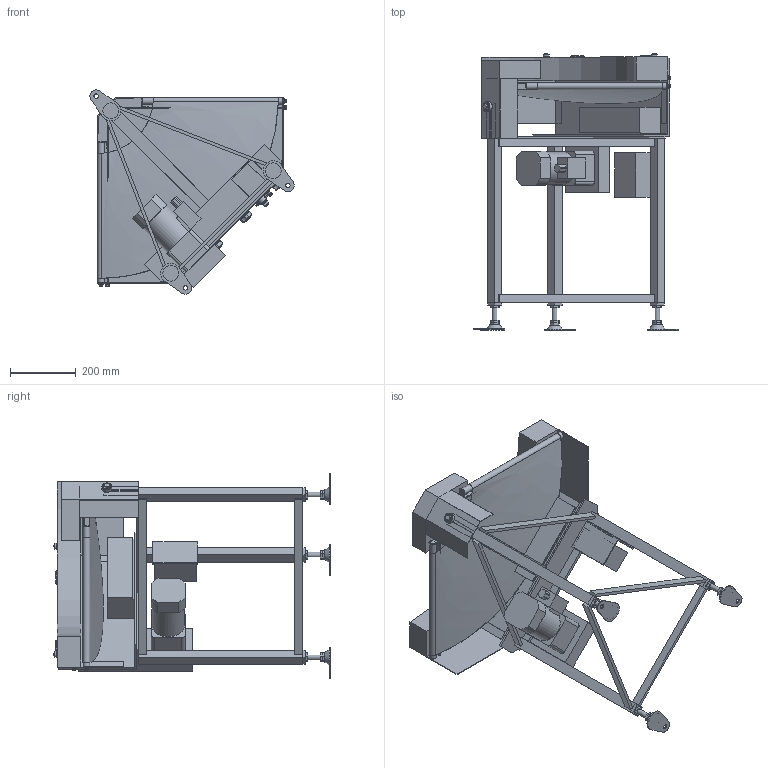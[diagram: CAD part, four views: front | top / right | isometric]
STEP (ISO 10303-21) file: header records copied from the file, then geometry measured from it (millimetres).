
FILE_DESCRIPTION (( 'STEP AP214' ), '1' );
FILE_NAME ('GBC90-UDH300-L.STEP', '2022-12-06T00:05:43', ( '' ), ( '' ), 'SwSTEP 2.0', 'SolidWorks 2017', '' );
FILE_SCHEMA (( 'AUTOMOTIVE_DESIGN' ));
Length unit declared in the file: millimetre
Products named in the file (1): GBC90-UDH300-L
Bounding box: 620.53 x 839.92 x 620.53 mm (x, y, z)
Volume: 19990507.4 mm3; surface area: 3312983.3 mm2
Topology: 55 solids, 55 shells, 841 faces, 1900 edges, 1228 vertices
Faces by surface type: plane 535, cylinder 166, cone 73, bspline 61, torus 4, sphere 2
Full cylindrical faces by diameter (mm): 4.2 x2, 5 x4, 6 x15, 6.4 x4, 7 x1, 8 x1, 9 x4, 10 x6, 12 x1, 12.2 x2, 12.5 x7, 13 x7, 15 x4, 16 x10, 18 x2, 18.4 x1, 20 x6, 21 x1, 22.2 x1, 23 x1, 25 x1, 30 x1, 99 x1
Entity records: 30454 total; most frequent: CARTESIAN_POINT 11950, ORIENTED_EDGE 3506, DIRECTION 3489, EDGE_CURVE 1753, AXIS2_PLACEMENT_3D 1215, VERTEX_POINT 1194, EDGE_LOOP 1061, VECTOR 1059
